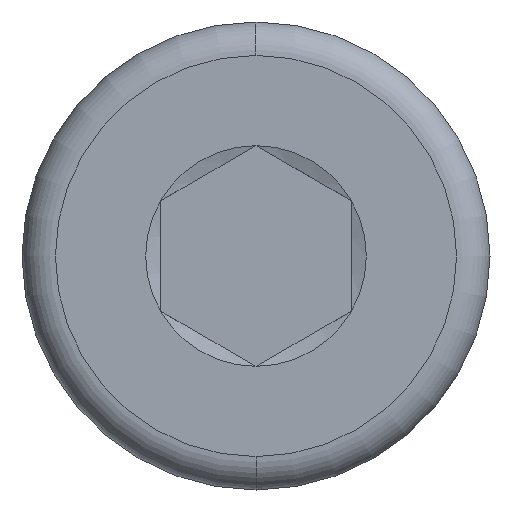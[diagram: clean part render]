
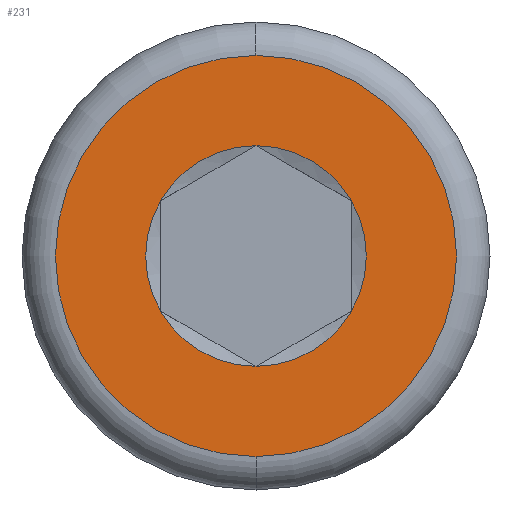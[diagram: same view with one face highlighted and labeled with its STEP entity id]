
A CAD part, left-side view. The second image highlights one B-rep face of the part: STEP entity #231.
In plain terms, the highlighted planar face has unit normal (-1, 0, 0).
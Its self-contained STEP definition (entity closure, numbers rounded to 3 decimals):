
#6 = DIRECTION ( 'NONE',  ( -1., 0., 0. ) ) ;
#7 = ORIENTED_EDGE ( 'NONE', *, *, #285, .T. ) ;
#11 = ORIENTED_EDGE ( 'NONE', *, *, #225, .F. ) ;
#14 = CARTESIAN_POINT ( 'NONE',  ( 0., 0., 0. ) ) ;
#16 = CARTESIAN_POINT ( 'NONE',  ( 0., 0., -2.309 ) ) ;
#36 = DIRECTION ( 'NONE',  ( 0., 0., -1. ) ) ;
#40 = AXIS2_PLACEMENT_3D ( 'NONE', #48, #578, #167 ) ;
#48 = CARTESIAN_POINT ( 'NONE',  ( 0., 0., 0. ) ) ;
#52 = CARTESIAN_POINT ( 'NONE',  ( 0., 0., 0. ) ) ;
#55 = FACE_OUTER_BOUND ( 'NONE', #258, .T. ) ;
#76 = AXIS2_PLACEMENT_3D ( 'NONE', #52, #401, #36 ) ;
#83 = ORIENTED_EDGE ( 'NONE', *, *, #446, .T. ) ;
#87 = EDGE_CURVE ( 'NONE', #340, #107, #575, .T. ) ;
#96 = DIRECTION ( 'NONE',  ( 0., 0., -1. ) ) ;
#107 = VERTEX_POINT ( 'NONE', #672 ) ;
#127 = AXIS2_PLACEMENT_3D ( 'NONE', #434, #637, #476 ) ;
#133 = CARTESIAN_POINT ( 'NONE',  ( 0., 0., 0. ) ) ;
#148 = CARTESIAN_POINT ( 'NONE',  ( 0., 0., 0. ) ) ;
#155 = VERTEX_POINT ( 'NONE', #513 ) ;
#165 = EDGE_CURVE ( 'NONE', #458, #399, #508, .T. ) ;
#167 = DIRECTION ( 'NONE',  ( 0., 0., -1. ) ) ;
#172 = AXIS2_PLACEMENT_3D ( 'NONE', #183, #649, #327 ) ;
#174 = ORIENTED_EDGE ( 'NONE', *, *, #554, .T. ) ;
#183 = CARTESIAN_POINT ( 'NONE',  ( 0., 0., 0. ) ) ;
#202 = EDGE_CURVE ( 'NONE', #155, #650, #217, .T. ) ;
#216 = CARTESIAN_POINT ( 'NONE',  ( 0., 0., 0. ) ) ;
#217 = CIRCLE ( 'NONE', #40, 2.309 ) ;
#225 = EDGE_CURVE ( 'NONE', #107, #340, #246, .T. ) ;
#230 = VERTEX_POINT ( 'NONE', #629 ) ;
#231 = ADVANCED_FACE ( 'NONE', ( #266, #55 ), #482, .T. ) ;
#241 = CARTESIAN_POINT ( 'NONE',  ( 0., 0., 0. ) ) ;
#246 = CIRCLE ( 'NONE', #127, 4.2 ) ;
#258 = EDGE_LOOP ( 'NONE', ( #601, #11 ) ) ;
#266 = FACE_BOUND ( 'NONE', #525, .T. ) ;
#270 = DIRECTION ( 'NONE',  ( 0., 0., -1. ) ) ;
#275 = AXIS2_PLACEMENT_3D ( 'NONE', #14, #582, #270 ) ;
#278 = CARTESIAN_POINT ( 'NONE',  ( 0., 2., 1.155 ) ) ;
#282 = CARTESIAN_POINT ( 'NONE',  ( 0., 0., -4.2 ) ) ;
#285 = EDGE_CURVE ( 'NONE', #650, #458, #560, .T. ) ;
#296 = VERTEX_POINT ( 'NONE', #16 ) ;
#300 = DIRECTION ( 'NONE',  ( 0., 0., -1. ) ) ;
#306 = DIRECTION ( 'NONE',  ( 1., 0., 0. ) ) ;
#327 = DIRECTION ( 'NONE',  ( 0., 0., -1. ) ) ;
#329 = ORIENTED_EDGE ( 'NONE', *, *, #202, .T. ) ;
#333 = AXIS2_PLACEMENT_3D ( 'NONE', #216, #6, #425 ) ;
#340 = VERTEX_POINT ( 'NONE', #282 ) ;
#368 = CIRCLE ( 'NONE', #172, 2.309 ) ;
#398 = EDGE_CURVE ( 'NONE', #230, #296, #642, .T. ) ;
#399 = VERTEX_POINT ( 'NONE', #435 ) ;
#401 = DIRECTION ( 'NONE',  ( 1., 0., 0. ) ) ;
#403 = AXIS2_PLACEMENT_3D ( 'NONE', #241, #504, #300 ) ;
#425 = DIRECTION ( 'NONE',  ( 0., 0., 1. ) ) ;
#434 = CARTESIAN_POINT ( 'NONE',  ( 0., 0., 0. ) ) ;
#435 = CARTESIAN_POINT ( 'NONE',  ( 0., -2., 1.155 ) ) ;
#446 = EDGE_CURVE ( 'NONE', #399, #230, #368, .T. ) ;
#457 = CIRCLE ( 'NONE', #576, 2.309 ) ;
#458 = VERTEX_POINT ( 'NONE', #645 ) ;
#472 = ORIENTED_EDGE ( 'NONE', *, *, #165, .T. ) ;
#474 = ORIENTED_EDGE ( 'NONE', *, *, #398, .T. ) ;
#476 = DIRECTION ( 'NONE',  ( 0., 0., -1. ) ) ;
#482 = PLANE ( 'NONE',  #333 ) ;
#499 = AXIS2_PLACEMENT_3D ( 'NONE', #133, #544, #590 ) ;
#504 = DIRECTION ( 'NONE',  ( 1., 0., 0. ) ) ;
#508 = CIRCLE ( 'NONE', #76, 2.309 ) ;
#513 = CARTESIAN_POINT ( 'NONE',  ( 0., 2., -1.155 ) ) ;
#525 = EDGE_LOOP ( 'NONE', ( #7, #472, #83, #474, #174, #329 ) ) ;
#544 = DIRECTION ( 'NONE',  ( 1., 0., 0. ) ) ;
#554 = EDGE_CURVE ( 'NONE', #296, #155, #457, .T. ) ;
#560 = CIRCLE ( 'NONE', #275, 2.309 ) ;
#575 = CIRCLE ( 'NONE', #403, 4.2 ) ;
#576 = AXIS2_PLACEMENT_3D ( 'NONE', #148, #306, #96 ) ;
#578 = DIRECTION ( 'NONE',  ( 1., 0., 0. ) ) ;
#582 = DIRECTION ( 'NONE',  ( 1., 0., 0. ) ) ;
#590 = DIRECTION ( 'NONE',  ( 0., 0., -1. ) ) ;
#601 = ORIENTED_EDGE ( 'NONE', *, *, #87, .F. ) ;
#629 = CARTESIAN_POINT ( 'NONE',  ( 0., -2., -1.155 ) ) ;
#637 = DIRECTION ( 'NONE',  ( 1., 0., 0. ) ) ;
#642 = CIRCLE ( 'NONE', #499, 2.309 ) ;
#645 = CARTESIAN_POINT ( 'NONE',  ( 0., 0., 2.309 ) ) ;
#649 = DIRECTION ( 'NONE',  ( 1., 0., 0. ) ) ;
#650 = VERTEX_POINT ( 'NONE', #278 ) ;
#672 = CARTESIAN_POINT ( 'NONE',  ( 0., 0., 4.2 ) ) ;
